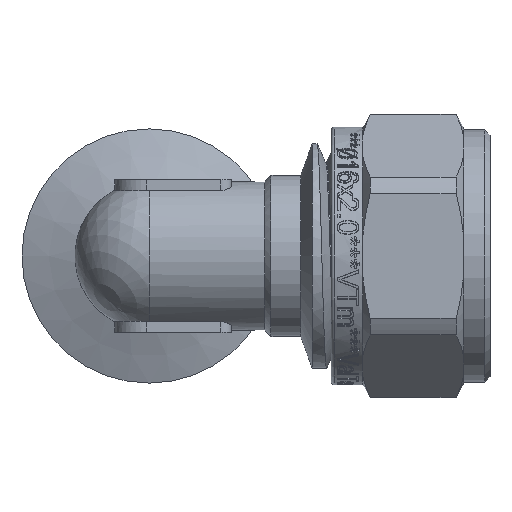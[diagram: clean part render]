
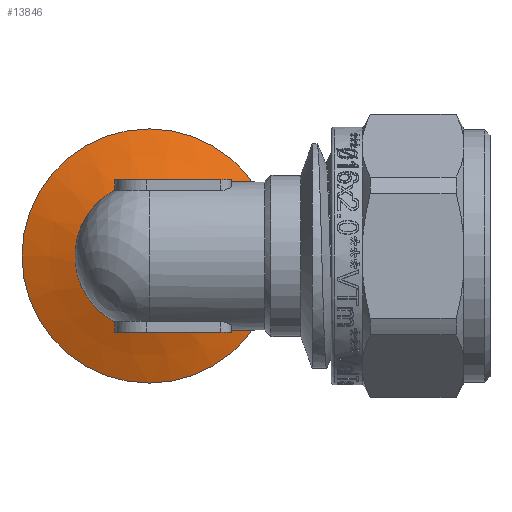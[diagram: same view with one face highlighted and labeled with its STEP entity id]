
A CAD part, front view. The second image highlights one B-rep face of the part: STEP entity #13846.
In plain terms, the highlighted conical face has half-angle 70 degrees and reference radius 9.5 mm.
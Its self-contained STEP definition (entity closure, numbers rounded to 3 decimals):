
#391=(
BOUNDED_CURVE()
B_SPLINE_CURVE(2,(#19330,#19331,#19332),.UNSPECIFIED.,.F.,.F.)
B_SPLINE_CURVE_WITH_KNOTS((3,3),(0.125,0.25),
 .UNSPECIFIED.)
CURVE()
GEOMETRIC_REPRESENTATION_ITEM()
RATIONAL_B_SPLINE_CURVE((1.004,1.004,1.))
REPRESENTATION_ITEM('')
);
#392=(
BOUNDED_CURVE()
B_SPLINE_CURVE(2,(#19334,#19335,#19336),.UNSPECIFIED.,.F.,.F.)
B_SPLINE_CURVE_WITH_KNOTS((3,3),(0.,0.125),.UNSPECIFIED.)
CURVE()
GEOMETRIC_REPRESENTATION_ITEM()
RATIONAL_B_SPLINE_CURVE((1.,1.004,1.004))
REPRESENTATION_ITEM('')
);
#393=(
BOUNDED_CURVE()
B_SPLINE_CURVE(2,(#19500,#19501,#19502),.UNSPECIFIED.,.F.,.F.)
B_SPLINE_CURVE_WITH_KNOTS((3,3),(0.,0.805),.UNSPECIFIED.)
CURVE()
GEOMETRIC_REPRESENTATION_ITEM()
RATIONAL_B_SPLINE_CURVE((1.,1.12,1.))
REPRESENTATION_ITEM('')
);
#394=(
BOUNDED_CURVE()
B_SPLINE_CURVE(2,(#19648,#19649,#19650),.UNSPECIFIED.,.F.,.F.)
B_SPLINE_CURVE_WITH_KNOTS((3,3),(0.805,1.61),
 .UNSPECIFIED.)
CURVE()
GEOMETRIC_REPRESENTATION_ITEM()
RATIONAL_B_SPLINE_CURVE((1.,1.12,1.))
REPRESENTATION_ITEM('')
);
#707=CONICAL_SURFACE('',#14685,9.5,1.222);
#768=FACE_OUTER_BOUND('',#1988,.T.);
#1544=CIRCLE('',#14679,7.);
#1547=CIRCLE('',#14686,12.);
#1548=CIRCLE('',#14687,12.);
#1988=EDGE_LOOP('',(#9483,#9484,#9485,#9486,#9487,#9488,#9489,#9490,#9491));
#3650=LINE('',#19656,#4650);
#4650=VECTOR('',#15598,9.5);
#5678=VERTEX_POINT('',#19327);
#5679=VERTEX_POINT('',#19329);
#5680=VERTEX_POINT('',#19333);
#5702=VERTEX_POINT('',#19498);
#5717=VERTEX_POINT('',#19578);
#5720=VERTEX_POINT('',#19652);
#5721=VERTEX_POINT('',#19653);
#7179=EDGE_CURVE('',#5679,#5678,#391,.T.);
#7180=EDGE_CURVE('',#5680,#5679,#392,.T.);
#7208=EDGE_CURVE('',#5678,#5702,#393,.T.);
#7224=EDGE_CURVE('',#5702,#5717,#1544,.T.);
#7231=EDGE_CURVE('',#5717,#5680,#394,.T.);
#7232=EDGE_CURVE('',#5720,#5721,#1547,.T.);
#7233=EDGE_CURVE('',#5721,#5720,#1548,.T.);
#7234=EDGE_CURVE('',#5721,#5679,#3650,.T.);
#9483=ORIENTED_EDGE('',*,*,#7232,.F.);
#9484=ORIENTED_EDGE('',*,*,#7233,.F.);
#9485=ORIENTED_EDGE('',*,*,#7234,.T.);
#9486=ORIENTED_EDGE('',*,*,#7179,.T.);
#9487=ORIENTED_EDGE('',*,*,#7208,.T.);
#9488=ORIENTED_EDGE('',*,*,#7224,.T.);
#9489=ORIENTED_EDGE('',*,*,#7231,.T.);
#9490=ORIENTED_EDGE('',*,*,#7180,.T.);
#9491=ORIENTED_EDGE('',*,*,#7234,.F.);
#13846=ADVANCED_FACE('',(#768),#707,.T.);
#14679=AXIS2_PLACEMENT_3D('',#19580,#15578,#15579);
#14685=AXIS2_PLACEMENT_3D('',#19651,#15592,#15593);
#14686=AXIS2_PLACEMENT_3D('',#19654,#15594,#15595);
#14687=AXIS2_PLACEMENT_3D('',#19655,#15596,#15597);
#15578=DIRECTION('center_axis',(0.,1.,0.));
#15579=DIRECTION('ref_axis',(1.,0.,0.));
#15592=DIRECTION('center_axis',(0.,1.,0.));
#15593=DIRECTION('ref_axis',(-1.,0.,0.));
#15594=DIRECTION('center_axis',(0.,1.,0.));
#15595=DIRECTION('ref_axis',(1.,0.,0.));
#15596=DIRECTION('center_axis',(0.,1.,0.));
#15597=DIRECTION('ref_axis',(1.,0.,0.));
#15598=DIRECTION('',(-0.94,-0.342,0.));
#19327=CARTESIAN_POINT('',(10.5,10.481,-1.25));
#19329=CARTESIAN_POINT('',(10.5,10.454,0.));
#19330=CARTESIAN_POINT('Ctrl Pts',(10.5,10.454,0.));
#19331=CARTESIAN_POINT('Ctrl Pts',(10.5,10.454,-0.623));
#19332=CARTESIAN_POINT('Ctrl Pts',(10.5,10.481,-1.25));
#19333=CARTESIAN_POINT('',(10.5,10.481,1.25));
#19334=CARTESIAN_POINT('Ctrl Pts',(10.5,10.481,1.25));
#19335=CARTESIAN_POINT('Ctrl Pts',(10.5,10.454,0.623));
#19336=CARTESIAN_POINT('Ctrl Pts',(10.5,10.454,0.));
#19498=CARTESIAN_POINT('',(3.981,9.18,-5.758));
#19500=CARTESIAN_POINT('Ctrl Pts',(10.5,10.481,-1.25));
#19501=CARTESIAN_POINT('Ctrl Pts',(6.578,9.18,-3.962));
#19502=CARTESIAN_POINT('Ctrl Pts',(3.981,9.18,-5.758));
#19578=CARTESIAN_POINT('',(3.981,9.18,5.758));
#19580=CARTESIAN_POINT('Origin',(0.,9.18,0.));
#19648=CARTESIAN_POINT('Ctrl Pts',(3.981,9.18,5.758));
#19649=CARTESIAN_POINT('Ctrl Pts',(6.578,9.18,3.962));
#19650=CARTESIAN_POINT('Ctrl Pts',(10.5,10.481,1.25));
#19651=CARTESIAN_POINT('Origin',(0.,10.09,0.));
#19652=CARTESIAN_POINT('',(-12.,11.,0.));
#19653=CARTESIAN_POINT('',(12.,11.,0.));
#19654=CARTESIAN_POINT('Origin',(0.,11.,0.));
#19655=CARTESIAN_POINT('Origin',(0.,11.,0.));
#19656=CARTESIAN_POINT('',(9.5,10.09,0.));
